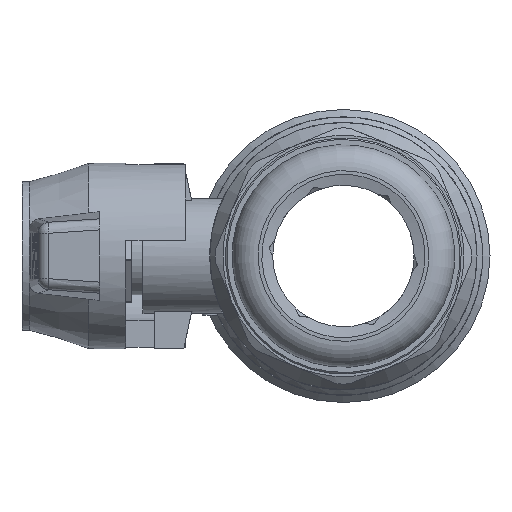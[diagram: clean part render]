
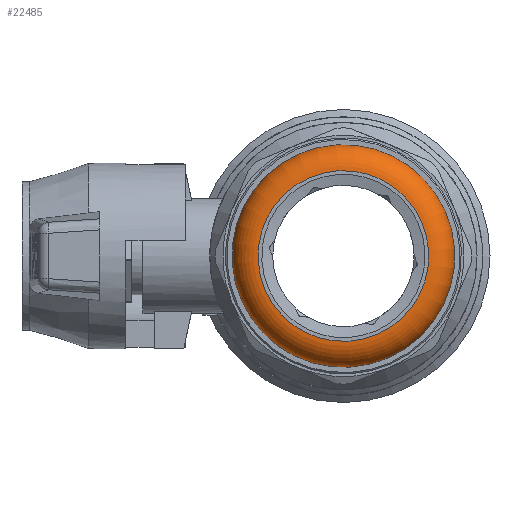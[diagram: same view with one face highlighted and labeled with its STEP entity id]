
A CAD part, left-side view. The second image highlights one B-rep face of the part: STEP entity #22485.
In plain terms, the highlighted toroidal (fillet/blend) face has major radius 11.5 mm and minor radius 3.5 mm.
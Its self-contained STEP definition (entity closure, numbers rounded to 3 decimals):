
#22451=CARTESIAN_POINT('',(-53.55,8.594,-11.717));
#22452=VERTEX_POINT('',#22451);
#22453=CARTESIAN_POINT('',(-53.55,0.0,0.0));
#22454=DIRECTION('',(-1.,0.0,0.0));
#22455=DIRECTION('',(0.0,0.591,-0.806));
#22456=AXIS2_PLACEMENT_3D('',#22453,#22454,#22455);
#22457=CIRCLE('',#22456,14.531);
#22458=EDGE_CURVE('',#22452,#22452,#22457,.T.);
#22466=CARTESIAN_POINT('',(-55.3,0.0,0.0));
#22467=DIRECTION('',(1.0,0.0,0.0));
#22468=DIRECTION('',(0.0,0.0,-1.0));
#22469=AXIS2_PLACEMENT_3D('',#22466,#22467,#22468);
#22470=TOROIDAL_SURFACE('',#22469,11.5,3.5);
#22471=CARTESIAN_POINT('',(-58.8,6.802,-9.273));
#22472=VERTEX_POINT('',#22471);
#22473=CARTESIAN_POINT('',(-58.8,0.0,0.0));
#22474=DIRECTION('',(-1.0,0.0,0.0));
#22475=DIRECTION('',(0.0,-0.591,0.806));
#22476=AXIS2_PLACEMENT_3D('',#22473,#22474,#22475);
#22477=CIRCLE('',#22476,11.5);
#22478=EDGE_CURVE('',#22472,#22472,#22477,.T.);
#22479=ORIENTED_EDGE('',*,*,#22478,.F.);
#22480=EDGE_LOOP('',(#22479));
#22481=FACE_OUTER_BOUND('',#22480,.T.);
#22482=ORIENTED_EDGE('',*,*,#22458,.T.);
#22483=EDGE_LOOP('',(#22482));
#22484=FACE_BOUND('',#22483,.T.);
#22485=ADVANCED_FACE('',(#22481,#22484),#22470,.T.);
